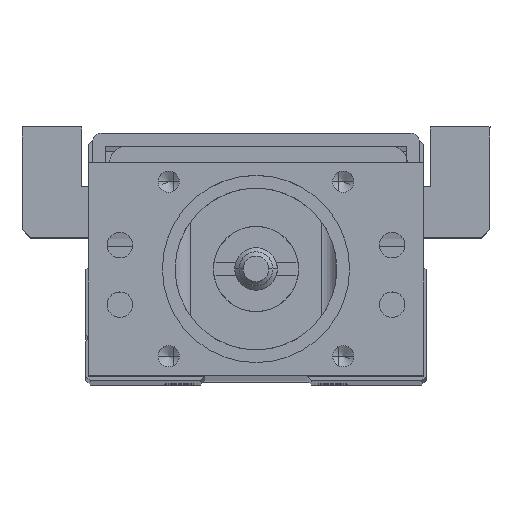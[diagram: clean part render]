
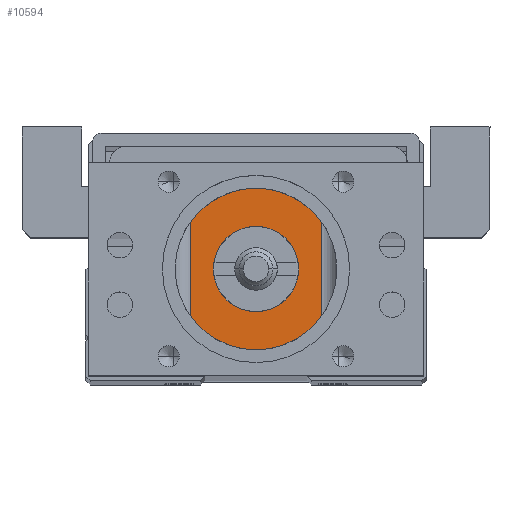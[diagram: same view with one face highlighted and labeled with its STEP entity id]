
A CAD part, top view. The second image highlights one B-rep face of the part: STEP entity #10594.
In plain terms, the highlighted planar face has unit normal (0, 0, 1).
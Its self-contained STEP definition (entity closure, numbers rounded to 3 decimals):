
#904 = DIRECTION ( 'NONE',  ( -1., 0., 0. ) ) ;
#905 = DIRECTION ( 'NONE',  ( 0., 0., 1. ) ) ;
#912 = CARTESIAN_POINT ( 'NONE',  ( -5., 13.05, 172.5 ) ) ;
#914 = AXIS2_PLACEMENT_3D ( 'NONE', #917, #905, #904 ) ;
#917 = CARTESIAN_POINT ( 'NONE',  ( 0., 13.05, 172.5 ) ) ;
#922 = CIRCLE ( 'NONE', #914, 5. ) ;
#950 = CARTESIAN_POINT ( 'NONE',  ( 5., 13.05, 172.5 ) ) ;
#1225 = VECTOR ( 'NONE', #1729, 1000. ) ;
#1729 = DIRECTION ( 'NONE',  ( -1., 0., 0. ) ) ;
#3716 = LINE ( 'NONE', #3745, #1225 ) ;
#3745 = CARTESIAN_POINT ( 'NONE',  ( -9.7, 25.5, 172.5 ) ) ;
#3793 = CARTESIAN_POINT ( 'NONE',  ( 7.7, 25.5, 172.5 ) ) ;
#3833 = AXIS2_PLACEMENT_3D ( 'NONE', #3885, #3871, #3870 ) ;
#3859 = CARTESIAN_POINT ( 'NONE',  ( -7.7, 0.5, 172.5 ) ) ;
#3861 = CARTESIAN_POINT ( 'NONE',  ( -9.7, 0., 172.5 ) ) ;
#3870 = DIRECTION ( 'NONE',  ( -1., 0., 0. ) ) ;
#3871 = DIRECTION ( 'NONE',  ( 0., 0., 1. ) ) ;
#3873 = DIRECTION ( 'NONE',  ( 0., 0., -1. ) ) ;
#3877 = DIRECTION ( 'NONE',  ( 0., -1., 0. ) ) ;
#3878 = VECTOR ( 'NONE', #3877, 1000. ) ;
#3881 = CIRCLE ( 'NONE', #3833, 5. ) ;
#3882 = CARTESIAN_POINT ( 'NONE',  ( -7.7, 0.5, 172.5 ) ) ;
#3883 = LINE ( 'NONE', #3882, #3878 ) ;
#3885 = CARTESIAN_POINT ( 'NONE',  ( 0., 13.05, 172.5 ) ) ;
#3899 = DIRECTION ( 'NONE',  ( 0., 1., 0. ) ) ;
#3900 = VECTOR ( 'NONE', #3899, 1000. ) ;
#3901 = CARTESIAN_POINT ( 'NONE',  ( 7.7, 25.5, 172.5 ) ) ;
#3902 = LINE ( 'NONE', #3901, #3900 ) ;
#3903 = DIRECTION ( 'NONE',  ( -1., 0., 0. ) ) ;
#3906 = AXIS2_PLACEMENT_3D ( 'NONE', #3861, #3873, #3903 ) ;
#3910 = CARTESIAN_POINT ( 'NONE',  ( -7.7, 25.5, 172.5 ) ) ;
#3911 = DIRECTION ( 'NONE',  ( -1., 0., 0. ) ) ;
#3912 = VECTOR ( 'NONE', #3911, 1000. ) ;
#3913 = PLANE ( 'NONE',  #3906 ) ;
#3914 = CARTESIAN_POINT ( 'NONE',  ( -6., 0.5, 172.5 ) ) ;
#3915 = LINE ( 'NONE', #3914, #3912 ) ;
#3918 = FACE_OUTER_BOUND ( 'NONE', #10593, .T. ) ;
#3919 = CARTESIAN_POINT ( 'NONE',  ( 7.7, 0.5, 172.5 ) ) ;
#3920 = FACE_BOUND ( 'NONE', #10589, .T. ) ;
#8775 = EDGE_CURVE ( 'NONE', #8793, #8780, #922, .T. ) ;
#8780 = VERTEX_POINT ( 'NONE', #912 ) ;
#8793 = VERTEX_POINT ( 'NONE', #950 ) ;
#10516 = EDGE_CURVE ( 'NONE', #10519, #10592, #3716, .T. ) ;
#10518 = ORIENTED_EDGE ( 'NONE', *, *, #10575, .F. ) ;
#10519 = VERTEX_POINT ( 'NONE', #3793 ) ;
#10574 = EDGE_CURVE ( 'NONE', #10592, #10595, #3883, .T. ) ;
#10575 = EDGE_CURVE ( 'NONE', #8780, #8793, #3881, .T. ) ;
#10576 = ORIENTED_EDGE ( 'NONE', *, *, #10574, .T. ) ;
#10578 = ORIENTED_EDGE ( 'NONE', *, *, #8775, .F. ) ;
#10588 = EDGE_CURVE ( 'NONE', #10590, #10595, #3915, .T. ) ;
#10589 = EDGE_LOOP ( 'NONE', ( #10518, #10578 ) ) ;
#10590 = VERTEX_POINT ( 'NONE', #3919 ) ;
#10592 = VERTEX_POINT ( 'NONE', #3910 ) ;
#10593 = EDGE_LOOP ( 'NONE', ( #10596, #10601, #10600, #10576 ) ) ;
#10594 = ADVANCED_FACE ( 'NONE', ( #3918, #3920 ), #3913, .F. ) ;
#10595 = VERTEX_POINT ( 'NONE', #3859 ) ;
#10596 = ORIENTED_EDGE ( 'NONE', *, *, #10588, .F. ) ;
#10597 = EDGE_CURVE ( 'NONE', #10590, #10519, #3902, .T. ) ;
#10600 = ORIENTED_EDGE ( 'NONE', *, *, #10516, .T. ) ;
#10601 = ORIENTED_EDGE ( 'NONE', *, *, #10597, .T. ) ;
